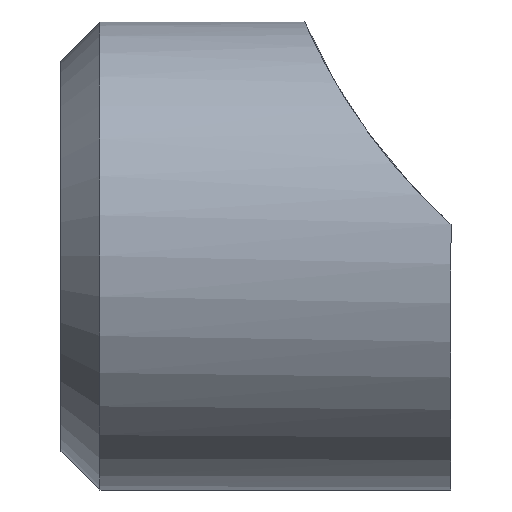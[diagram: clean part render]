
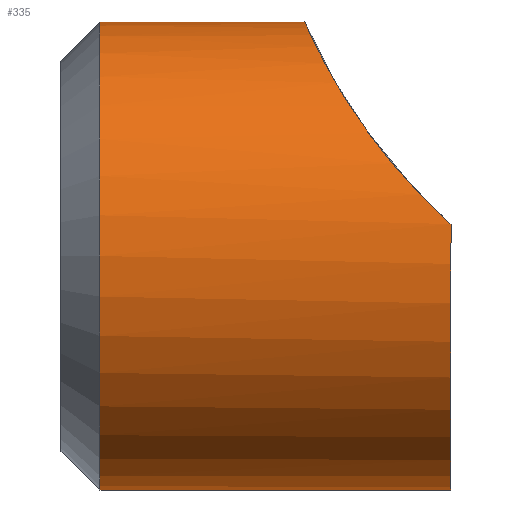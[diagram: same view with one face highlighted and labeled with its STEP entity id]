
A CAD part, left-side view. The second image highlights one B-rep face of the part: STEP entity #335.
In plain terms, the highlighted cylindrical face has radius 6 mm (diameter 12 mm), a partial arc.
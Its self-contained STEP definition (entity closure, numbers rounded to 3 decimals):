
#19=B_SPLINE_CURVE_WITH_KNOTS('',3,(#537,#538,#539,#540,#541,#542,#543,
#544,#545,#546,#547,#548,#549,#550),.UNSPECIFIED.,.F.,.F.,(4,2,2,2,2,2,
4),(3.032,3.145,3.327,3.427,
3.526,3.739,3.951),.UNSPECIFIED.);
#24=CYLINDRICAL_SURFACE('',#377,6.);
#43=FACE_OUTER_BOUND('',#65,.T.);
#65=EDGE_LOOP('',(#293,#294,#295,#296,#297));
#69=CIRCLE('',#354,6.);
#78=CIRCLE('',#373,6.);
#108=LINE('',#590,#140);
#109=LINE('',#591,#141);
#140=VECTOR('',#462,10.);
#141=VECTOR('',#463,10.);
#144=VERTEX_POINT('',#474);
#145=VERTEX_POINT('',#476);
#161=VERTEX_POINT('',#535);
#167=VERTEX_POINT('',#567);
#170=VERTEX_POINT('',#574);
#174=EDGE_CURVE('',#144,#145,#69,.T.);
#196=EDGE_CURVE('',#161,#144,#19,.F.);
#209=EDGE_CURVE('',#170,#167,#78,.T.);
#216=EDGE_CURVE('',#170,#161,#108,.T.);
#217=EDGE_CURVE('',#167,#145,#109,.T.);
#293=ORIENTED_EDGE('',*,*,#174,.F.);
#294=ORIENTED_EDGE('',*,*,#196,.F.);
#295=ORIENTED_EDGE('',*,*,#216,.F.);
#296=ORIENTED_EDGE('',*,*,#209,.T.);
#297=ORIENTED_EDGE('',*,*,#217,.T.);
#335=ADVANCED_FACE('',(#43),#24,.T.);
#354=AXIS2_PLACEMENT_3D('',#477,#386,#387);
#373=AXIS2_PLACEMENT_3D('',#577,#446,#447);
#377=AXIS2_PLACEMENT_3D('',#589,#460,#461);
#386=DIRECTION('center_axis',(0.,-1.,0.));
#387=DIRECTION('ref_axis',(0.,0.,-1.));
#446=DIRECTION('center_axis',(0.,-1.,0.));
#447=DIRECTION('ref_axis',(0.,0.,-1.));
#460=DIRECTION('center_axis',(0.,1.,0.));
#461=DIRECTION('ref_axis',(0.,0.,-1.));
#462=DIRECTION('',(0.,-1.,0.));
#463=DIRECTION('',(0.,-1.,0.));
#474=CARTESIAN_POINT('',(42.858,10.008,-0.155));
#476=CARTESIAN_POINT('',(48.802,10.008,-6.974));
#477=CARTESIAN_POINT('Origin',(48.802,10.008,-0.974));
#535=CARTESIAN_POINT('',(48.802,13.755,5.026));
#537=CARTESIAN_POINT('Ctrl Pts',(42.858,10.008,-0.155));
#538=CARTESIAN_POINT('Ctrl Pts',(42.895,10.304,0.11));
#539=CARTESIAN_POINT('Ctrl Pts',(42.952,10.598,0.395));
#540=CARTESIAN_POINT('Ctrl Pts',(43.171,11.32,1.154));
#541=CARTESIAN_POINT('Ctrl Pts',(43.377,11.721,1.639));
#542=CARTESIAN_POINT('Ctrl Pts',(43.779,12.226,2.319));
#543=CARTESIAN_POINT('Ctrl Pts',(43.957,12.407,2.58));
#544=CARTESIAN_POINT('Ctrl Pts',(44.366,12.733,3.079));
#545=CARTESIAN_POINT('Ctrl Pts',(44.598,12.878,3.318));
#546=CARTESIAN_POINT('Ctrl Pts',(45.326,13.25,3.961));
#547=CARTESIAN_POINT('Ctrl Pts',(45.955,13.448,4.359));
#548=CARTESIAN_POINT('Ctrl Pts',(47.338,13.699,4.891));
#549=CARTESIAN_POINT('Ctrl Pts',(48.093,13.755,5.026));
#550=CARTESIAN_POINT('Ctrl Pts',(48.802,13.755,5.026));
#567=CARTESIAN_POINT('',(48.802,19.008,-6.974));
#574=CARTESIAN_POINT('',(48.802,19.008,5.026));
#577=CARTESIAN_POINT('Origin',(48.802,19.008,-0.974));
#589=CARTESIAN_POINT('Origin',(48.802,-20.192,-0.974));
#590=CARTESIAN_POINT('',(48.802,20.208,5.026));
#591=CARTESIAN_POINT('',(48.802,20.208,-6.974));
